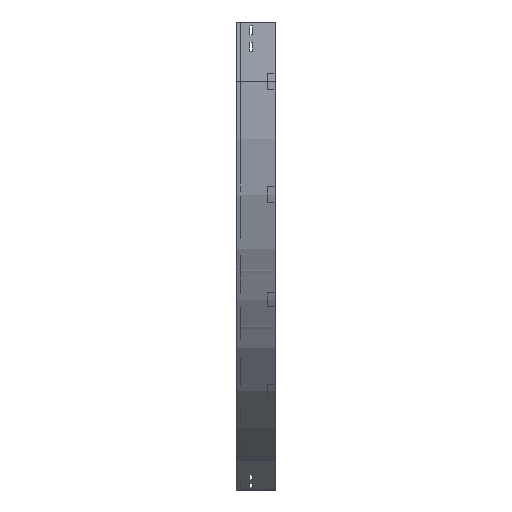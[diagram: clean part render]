
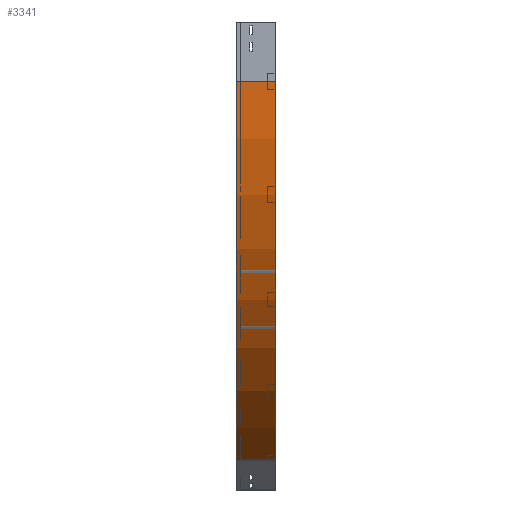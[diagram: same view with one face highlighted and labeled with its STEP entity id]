
A CAD part, left-side view. The second image highlights one B-rep face of the part: STEP entity #3341.
In plain terms, the highlighted cylindrical face has radius 1100 mm (diameter 2200 mm), a partial arc.
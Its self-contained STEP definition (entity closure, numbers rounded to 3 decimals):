
#79 = FACE_OUTER_BOUND ( 'NONE', #704, .T. ) ;
#103 = AXIS2_PLACEMENT_3D ( 'NONE', #465, #1070, #2839 ) ;
#141 = CYLINDRICAL_SURFACE ( 'NONE', #2242, 1100. ) ;
#217 = DIRECTION ( 'NONE',  ( -1., 0., 0. ) ) ;
#266 = ORIENTED_EDGE ( 'NONE', *, *, #3129, .T. ) ;
#426 = CIRCLE ( 'NONE', #3731, 1100. ) ;
#447 = VERTEX_POINT ( 'NONE', #2172 ) ;
#465 = CARTESIAN_POINT ( 'NONE',  ( 1100., 0., -150. ) ) ;
#693 = DIRECTION ( 'NONE',  ( 0., 0., -1. ) ) ;
#704 = EDGE_LOOP ( 'NONE', ( #2154, #2420, #266, #2940 ) ) ;
#735 = LINE ( 'NONE', #1923, #2582 ) ;
#809 = DIRECTION ( 'NONE',  ( 0., -1., 0. ) ) ;
#993 = CARTESIAN_POINT ( 'NONE',  ( 550., 100., -1102.628 ) ) ;
#1070 = DIRECTION ( 'NONE',  ( 0., -1., 0. ) ) ;
#1271 = VERTEX_POINT ( 'NONE', #993 ) ;
#1325 = CARTESIAN_POINT ( 'NONE',  ( 550., 0., -1102.628 ) ) ;
#1625 = DIRECTION ( 'NONE',  ( 0., -1., 0. ) ) ;
#1920 = EDGE_CURVE ( 'NONE', #447, #2088, #3472, .T. ) ;
#1923 = CARTESIAN_POINT ( 'NONE',  ( 0., 0., -150. ) ) ;
#2088 = VERTEX_POINT ( 'NONE', #3021 ) ;
#2154 = ORIENTED_EDGE ( 'NONE', *, *, #1920, .F. ) ;
#2155 = VECTOR ( 'NONE', #2470, 1000. ) ;
#2172 = CARTESIAN_POINT ( 'NONE',  ( 0., 0., -150. ) ) ;
#2242 = AXIS2_PLACEMENT_3D ( 'NONE', #3717, #1625, #693 ) ;
#2284 = EDGE_CURVE ( 'NONE', #3525, #447, #735, .T. ) ;
#2298 = CARTESIAN_POINT ( 'NONE',  ( 1100., 100., -150. ) ) ;
#2420 = ORIENTED_EDGE ( 'NONE', *, *, #2284, .F. ) ;
#2470 = DIRECTION ( 'NONE',  ( 0., -1., 0. ) ) ;
#2582 = VECTOR ( 'NONE', #3426, 1000. ) ;
#2839 = DIRECTION ( 'NONE',  ( -1., 0., 0. ) ) ;
#2885 = EDGE_CURVE ( 'NONE', #1271, #2088, #3661, .T. ) ;
#2940 = ORIENTED_EDGE ( 'NONE', *, *, #2885, .T. ) ;
#3021 = CARTESIAN_POINT ( 'NONE',  ( 550., 0., -1102.628 ) ) ;
#3129 = EDGE_CURVE ( 'NONE', #3525, #1271, #426, .T. ) ;
#3341 = ADVANCED_FACE ( 'NONE', ( #79 ), #141, .T. ) ;
#3426 = DIRECTION ( 'NONE',  ( 0., -1., 0. ) ) ;
#3472 = CIRCLE ( 'NONE', #103, 1100. ) ;
#3478 = CARTESIAN_POINT ( 'NONE',  ( 0., 100., -150. ) ) ;
#3525 = VERTEX_POINT ( 'NONE', #3478 ) ;
#3661 = LINE ( 'NONE', #1325, #2155 ) ;
#3717 = CARTESIAN_POINT ( 'NONE',  ( 1100., 0., -150. ) ) ;
#3731 = AXIS2_PLACEMENT_3D ( 'NONE', #2298, #809, #217 ) ;
